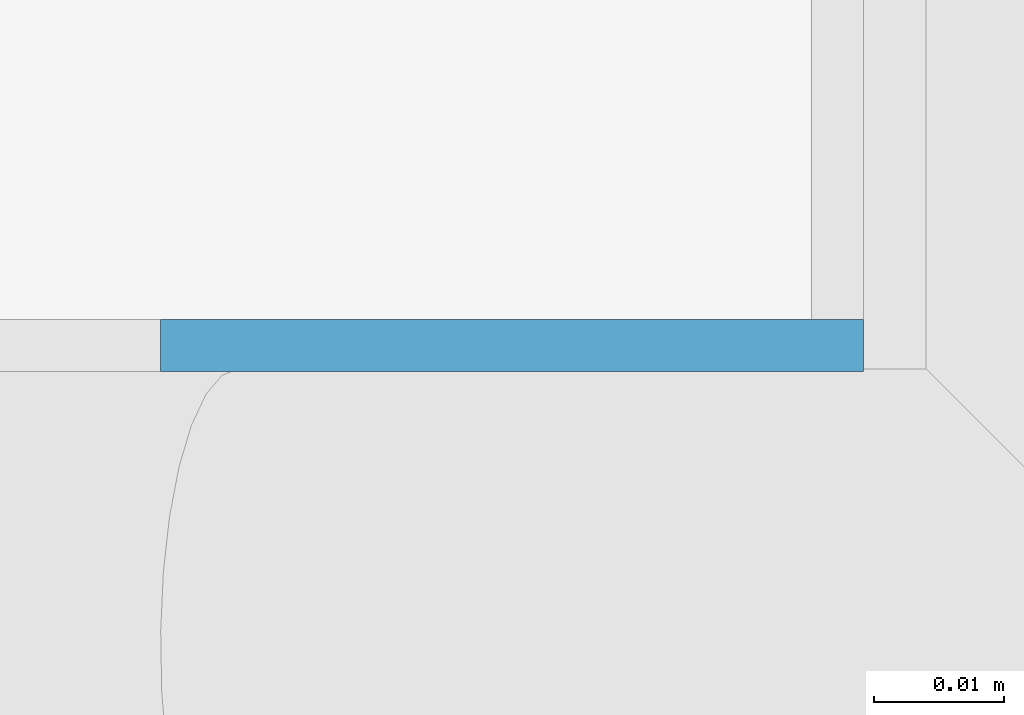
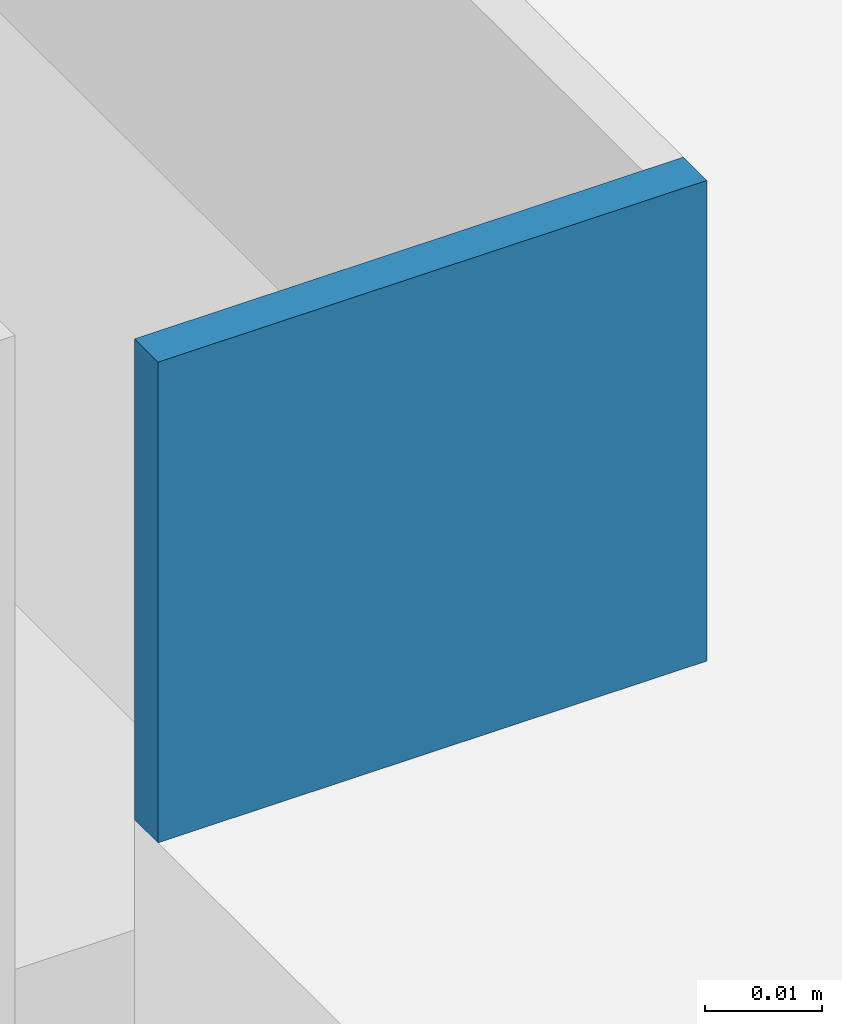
# One storey, part 47 of 410: 1 beam.
"""IFC2X3 building model written with IfcOpenShell, lengths in millimetres."""

from ifc_helpers import new_model, entity, si_unit, converted_unit, frame, origin, origin_with_axes, origin_2d, place, context, project, spatial, rectangle, extrude, material, element, save


model = new_model("IFC2X3")

# Units and contexts
model_context = context("Model", 3, precision=1e-09, world=origin_with_axes())
ifc_project = project(units=[si_unit("LENGTHUNIT", "METRE", prefix="MILLI"), si_unit("AREAUNIT", "SQUARE_METRE"), si_unit("VOLUMEUNIT", "CUBIC_METRE"), converted_unit("PLANEANGLEUNIT", "DEGREE", entity("IfcPlaneAngleMeasure", 0.01745329), si_unit("PLANEANGLEUNIT", "RADIAN"), dimensions=[0, 0, 0, 0, 0, 0, 0])], contexts=[model_context])

# Site, building, storey
site_placement = place(None, origin_with_axes())
site = spatial("IfcSite", under=ifc_project, at=site_placement, Name="mKR Teilneubau & Sanierung BA1 - Ostfildern", CompositionType="ELEMENT")
building_placement = place(site_placement, origin_with_axes())
building = spatial("IfcBuilding", under=site, at=building_placement, Name="Struktur 1", CompositionType="ELEMENT")
storey_placement = place(building_placement, origin_with_axes())
storey = spatial("IfcBuildingStorey", under=building, at=storey_placement, Name="Default Storey", CompositionType="ELEMENT", Elevation=0.0)

# Beam
ifc_material = material(Name="S235JR")
beam_placement = place(None, frame((1829.001468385, 16797.998999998, -2120.6), z_axis=(1.0, 0.0, 0.0), x_axis=(0.0, 1.0, 0.0)))
element("IfcBeam", 1, at=beam_placement, inside=storey, material=ifc_material, Name="-", ObjectType="-", context=model_context, shape_type="SweptSolid", body=[
    extrude(rectangle(XDim=4.0, YDim=50.0, at=origin_2d()), origin(), (0.0, 0.0, -1.0), 54.001468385),
])

save(model, "model.ifc")
